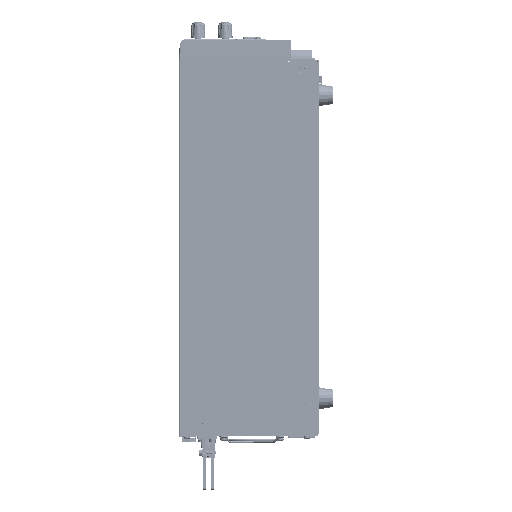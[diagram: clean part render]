
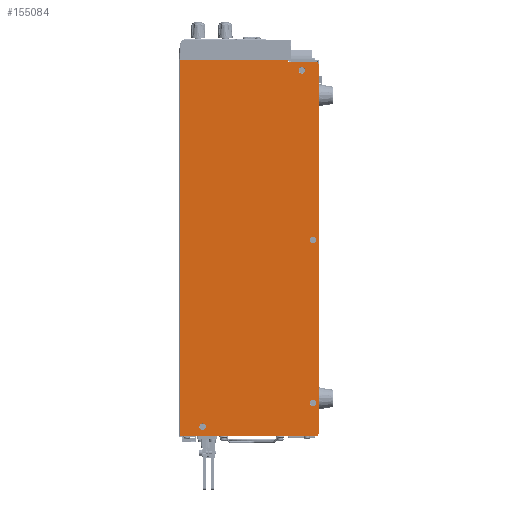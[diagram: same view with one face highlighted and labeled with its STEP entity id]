
A CAD part, left-side view. The second image highlights one B-rep face of the part: STEP entity #155084.
In plain terms, the highlighted planar face has unit normal (-1, 0, 0).
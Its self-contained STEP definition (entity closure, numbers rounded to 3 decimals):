
#2178=DIRECTION('',(0.,1.,0.));
#2179=VECTOR('',#2178,3.756);
#2180=CARTESIAN_POINT('',(-1.386,1.087,0.));
#2181=LINE('',#2180,#2179);
#2365=CARTESIAN_POINT('',(-1.386,4.055,
-12.756));
#2366=DIRECTION('',(-1.,0.,0.));
#2367=DIRECTION('',(0.,1.,0.));
#2368=AXIS2_PLACEMENT_3D('',#2365,#2366,#2367);
#2370=CARTESIAN_POINT('',(-1.386,4.055,
-12.756));
#2371=DIRECTION('',(-1.,0.,0.));
#2372=DIRECTION('',(0.,-1.,0.));
#2373=AXIS2_PLACEMENT_3D('',#2370,#2371,#2372);
#2375=CARTESIAN_POINT('',(-1.386,0.205,
-11.929));
#2376=DIRECTION('',(-1.,0.,0.));
#2377=DIRECTION('',(0.,1.,0.));
#2378=AXIS2_PLACEMENT_3D('',#2375,#2376,#2377);
#2380=CARTESIAN_POINT('',(-1.386,0.205,
-11.929));
#2381=DIRECTION('',(-1.,0.,0.));
#2382=DIRECTION('',(0.,-1.,0.));
#2383=AXIS2_PLACEMENT_3D('',#2380,#2381,#2382);
#2385=CARTESIAN_POINT('',(-1.386,0.598,
-0.354));
#2386=DIRECTION('',(-1.,0.,0.));
#2387=DIRECTION('',(0.,1.,0.));
#2388=AXIS2_PLACEMENT_3D('',#2385,#2386,#2387);
#2390=CARTESIAN_POINT('',(-1.386,0.598,
-0.354));
#2391=DIRECTION('',(-1.,0.,0.));
#2392=DIRECTION('',(0.,-1.,0.));
#2393=AXIS2_PLACEMENT_3D('',#2390,#2391,#2392);
#2395=CARTESIAN_POINT('',(-1.386,0.205,
-6.26));
#2396=DIRECTION('',(-1.,0.,0.));
#2397=DIRECTION('',(0.,1.,0.));
#2398=AXIS2_PLACEMENT_3D('',#2395,#2396,#2397);
#2400=CARTESIAN_POINT('',(-1.386,0.205,
-6.26));
#2401=DIRECTION('',(-1.,0.,0.));
#2402=DIRECTION('',(0.,-1.,0.));
#2403=AXIS2_PLACEMENT_3D('',#2400,#2401,#2402);
#2405=CARTESIAN_POINT('',(-1.386,0.098,
-0.13));
#2406=DIRECTION('',(1.,0.,0.));
#2407=DIRECTION('',(0.,0.,1.));
#2408=AXIS2_PLACEMENT_3D('',#2405,#2406,#2407);
#2410=CARTESIAN_POINT('',(-1.386,0.098,
-13.012));
#2411=DIRECTION('',(1.,0.,0.));
#2412=DIRECTION('',(0.,-1.,0.));
#2413=AXIS2_PLACEMENT_3D('',#2410,#2411,#2412);
#3139=DIRECTION('',(0.,0.,1.));
#3140=VECTOR('',#3139,0.051);
#3141=CARTESIAN_POINT('',(-1.386,1.087,
-0.051));
#3142=LINE('',#3141,#3140);
#3170=DIRECTION('',(0.,-1.,0.));
#3171=VECTOR('',#3170,4.744);
#3172=CARTESIAN_POINT('',(-1.386,4.843,
-13.091));
#3173=LINE('',#3172,#3171);
#3178=DIRECTION('',(0.,0.,-1.));
#3179=VECTOR('',#3178,13.091);
#3180=CARTESIAN_POINT('',(-1.386,4.843,0.));
#3181=LINE('',#3180,#3179);
#100927=DIRECTION('',(0.,0.,1.));
#100928=VECTOR('',#100927,12.882);
#100929=CARTESIAN_POINT('',(-1.386,0.02,
-13.012));
#100930=LINE('',#100929,#100928);
#100939=DIRECTION('',(0.,1.,0.));
#100940=VECTOR('',#100939,0.988);
#100941=CARTESIAN_POINT('',(-1.386,0.098,
-0.051));
#100942=LINE('',#100941,#100940);
#129287=CARTESIAN_POINT('',(-1.386,0.098,
-0.051));
#129288=CARTESIAN_POINT('',(-1.386,0.02,
-0.13));
#129289=VERTEX_POINT('',#129287);
#129290=VERTEX_POINT('',#129288);
#129291=CARTESIAN_POINT('',(-1.386,0.02,
-13.012));
#129292=VERTEX_POINT('',#129291);
#129293=CARTESIAN_POINT('',(-1.386,0.098,
-13.091));
#129294=VERTEX_POINT('',#129293);
#129295=CARTESIAN_POINT('',(-1.386,4.843,
-13.091));
#129296=VERTEX_POINT('',#129295);
#129297=CARTESIAN_POINT('',(-1.386,1.087,
-0.051));
#129298=VERTEX_POINT('',#129297);
#129299=CARTESIAN_POINT('',(-1.386,4.169,
-12.756));
#129300=CARTESIAN_POINT('',(-1.386,3.941,
-12.756));
#129301=VERTEX_POINT('',#129299);
#129302=VERTEX_POINT('',#129300);
#129303=CARTESIAN_POINT('',(-1.386,0.319,
-11.929));
#129304=CARTESIAN_POINT('',(-1.386,0.091,
-11.929));
#129305=VERTEX_POINT('',#129303);
#129306=VERTEX_POINT('',#129304);
#129307=CARTESIAN_POINT('',(-1.386,0.712,
-0.354));
#129308=CARTESIAN_POINT('',(-1.386,0.485,
-0.354));
#129309=VERTEX_POINT('',#129307);
#129310=VERTEX_POINT('',#129308);
#129311=CARTESIAN_POINT('',(-1.386,0.319,
-6.26));
#129312=CARTESIAN_POINT('',(-1.386,0.091,
-6.26));
#129313=VERTEX_POINT('',#129311);
#129314=VERTEX_POINT('',#129312);
#148412=CARTESIAN_POINT('',(-1.386,1.087,0.));
#148413=CARTESIAN_POINT('',(-1.386,4.843,0.));
#148414=VERTEX_POINT('',#148412);
#148415=VERTEX_POINT('',#148413);
#155038=CARTESIAN_POINT('',(-1.386,2.431,
-6.545));
#155039=DIRECTION('',(1.,0.,0.));
#155040=DIRECTION('',(0.,-1.,0.));
#155041=AXIS2_PLACEMENT_3D('',#155038,#155039,#155040);
#155042=PLANE('',#155041);
#155044=ORIENTED_EDGE('',*,*,#155043,.F.);
#155046=ORIENTED_EDGE('',*,*,#155045,.F.);
#155048=ORIENTED_EDGE('',*,*,#155047,.T.);
#155050=ORIENTED_EDGE('',*,*,#155049,.F.);
#155052=ORIENTED_EDGE('',*,*,#155051,.T.);
#155054=ORIENTED_EDGE('',*,*,#155053,.F.);
#155056=ORIENTED_EDGE('',*,*,#155055,.F.);
#155057=ORIENTED_EDGE('',*,*,#154978,.F.);
#155058=EDGE_LOOP('',(#155044,#155046,#155048,#155050,#155052,#155054,#155056,
#155057));
#155059=FACE_OUTER_BOUND('',#155058,.F.);
#155061=ORIENTED_EDGE('',*,*,#155060,.T.);
#155063=ORIENTED_EDGE('',*,*,#155062,.T.);
#155064=EDGE_LOOP('',(#155061,#155063));
#155065=FACE_BOUND('',#155064,.F.);
#155067=ORIENTED_EDGE('',*,*,#155066,.T.);
#155069=ORIENTED_EDGE('',*,*,#155068,.T.);
#155070=EDGE_LOOP('',(#155067,#155069));
#155071=FACE_BOUND('',#155070,.F.);
#155073=ORIENTED_EDGE('',*,*,#155072,.T.);
#155075=ORIENTED_EDGE('',*,*,#155074,.T.);
#155076=EDGE_LOOP('',(#155073,#155075));
#155077=FACE_BOUND('',#155076,.F.);
#155079=ORIENTED_EDGE('',*,*,#155078,.T.);
#155081=ORIENTED_EDGE('',*,*,#155080,.T.);
#155082=EDGE_LOOP('',(#155079,#155081));
#155083=FACE_BOUND('',#155082,.F.);
#155084=ADVANCED_FACE('',(#155059,#155065,#155071,#155077,#155083),#155042,.F.);
#2369=CIRCLE('',#2368,0.114);
#2374=CIRCLE('',#2373,0.114);
#2379=CIRCLE('',#2378,0.114);
#2384=CIRCLE('',#2383,0.114);
#2389=CIRCLE('',#2388,0.114);
#2394=CIRCLE('',#2393,0.114);
#2399=CIRCLE('',#2398,0.114);
#2404=CIRCLE('',#2403,0.114);
#2409=CIRCLE('',#2408,0.079);
#2414=CIRCLE('',#2413,0.079);
#154978=EDGE_CURVE('',#148414,#148415,#2181,.T.);
#155043=EDGE_CURVE('',#129298,#148414,#3142,.T.);
#155045=EDGE_CURVE('',#129289,#129298,#100942,.T.);
#155047=EDGE_CURVE('',#129289,#129290,#2409,.T.);
#155049=EDGE_CURVE('',#129292,#129290,#100930,.T.);
#155051=EDGE_CURVE('',#129292,#129294,#2414,.T.);
#155053=EDGE_CURVE('',#129296,#129294,#3173,.T.);
#155055=EDGE_CURVE('',#148415,#129296,#3181,.T.);
#155060=EDGE_CURVE('',#129305,#129306,#2379,.T.);
#155062=EDGE_CURVE('',#129306,#129305,#2384,.T.);
#155066=EDGE_CURVE('',#129309,#129310,#2389,.T.);
#155068=EDGE_CURVE('',#129310,#129309,#2394,.T.);
#155072=EDGE_CURVE('',#129313,#129314,#2399,.T.);
#155074=EDGE_CURVE('',#129314,#129313,#2404,.T.);
#155078=EDGE_CURVE('',#129301,#129302,#2369,.T.);
#155080=EDGE_CURVE('',#129302,#129301,#2374,.T.);
